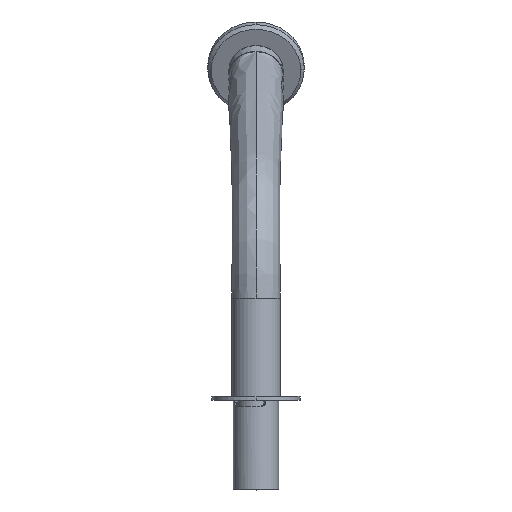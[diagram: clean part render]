
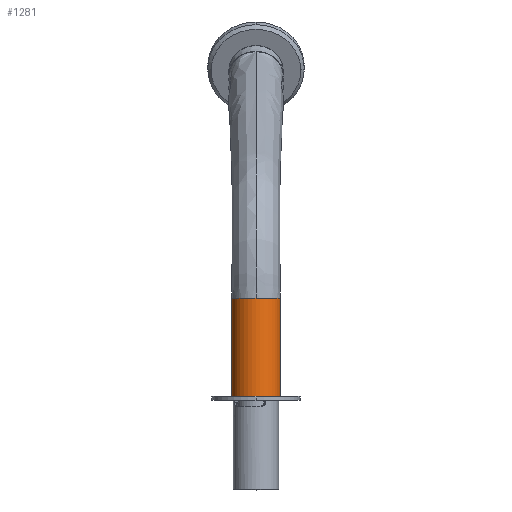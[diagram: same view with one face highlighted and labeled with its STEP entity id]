
A CAD part, top view. The second image highlights one B-rep face of the part: STEP entity #1281.
In plain terms, the highlighted cylindrical face has radius 17 mm (diameter 34 mm), a partial arc.
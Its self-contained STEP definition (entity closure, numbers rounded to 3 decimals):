
#58 = LINE ( 'NONE', #6566, #60 ) ;
#60 = VECTOR ( 'NONE', #6567, 1000. ) ;
#61 = CIRCLE ( 'NONE', #11744, 17. ) ;
#812 = VERTEX_POINT ( 'NONE', #7417 ) ;
#824 = VERTEX_POINT ( 'NONE', #7533 ) ;
#847 = VERTEX_POINT ( 'NONE', #7524 ) ;
#895 = VERTEX_POINT ( 'NONE', #7779 ) ;
#1281 = ADVANCED_FACE ( 'NONE', ( #5502 ), #5513, .T. ) ;
#1845 = CARTESIAN_POINT ( 'NONE',  ( -17., -70., 0. ) ) ;
#1846 = DIRECTION ( 'NONE',  ( 0., -1., 0. ) ) ;
#2255 = CARTESIAN_POINT ( 'NONE',  ( 0., 0., 0. ) ) ;
#2256 = DIRECTION ( 'NONE',  ( 0., -1., 0. ) ) ;
#2257 = DIRECTION ( 'NONE',  ( 1., 0., 0. ) ) ;
#2461 = ORIENTED_EDGE ( 'NONE', *, *, #3773, .T. ) ;
#2463 = ORIENTED_EDGE ( 'NONE', *, *, #4010, .T. ) ;
#2756 = CIRCLE ( 'NONE', #11492, 17. ) ;
#3773 = EDGE_CURVE ( 'NONE', #847, #824, #5761, .T. ) ;
#4010 = EDGE_CURVE ( 'NONE', #812, #847, #2756, .T. ) ;
#4213 = EDGE_CURVE ( 'NONE', #812, #895, #58, .T. ) ;
#4215 = EDGE_CURVE ( 'NONE', #895, #824, #61, .T. ) ;
#5502 = FACE_OUTER_BOUND ( 'NONE', #9622, .T. ) ;
#5513 = CYLINDRICAL_SURFACE ( 'NONE', #11838, 17. ) ;
#5761 = LINE ( 'NONE', #1845, #5764 ) ;
#5764 = VECTOR ( 'NONE', #1846, 1000. ) ;
#6566 = CARTESIAN_POINT ( 'NONE',  ( 17., -70., 0. ) ) ;
#6567 = DIRECTION ( 'NONE',  ( 0., -1., 0. ) ) ;
#6579 = CARTESIAN_POINT ( 'NONE',  ( 0., -70., 0. ) ) ;
#6580 = DIRECTION ( 'NONE',  ( 0., -1., 0. ) ) ;
#6581 = DIRECTION ( 'NONE',  ( 1., 0., 0. ) ) ;
#7417 = CARTESIAN_POINT ( 'NONE',  ( 17., 0., 0. ) ) ;
#7524 = CARTESIAN_POINT ( 'NONE',  ( -17., 0., 0. ) ) ;
#7533 = CARTESIAN_POINT ( 'NONE',  ( -17., -70., 0. ) ) ;
#7779 = CARTESIAN_POINT ( 'NONE',  ( 17., -70., 0. ) ) ;
#9422 = ORIENTED_EDGE ( 'NONE', *, *, #4213, .F. ) ;
#9425 = ORIENTED_EDGE ( 'NONE', *, *, #4215, .F. ) ;
#9622 = EDGE_LOOP ( 'NONE', ( #2463, #2461, #9425, #9422 ) ) ;
#10672 = CARTESIAN_POINT ( 'NONE',  ( 0., -70., 0. ) ) ;
#11091 = DIRECTION ( 'NONE',  ( 0., -1., 0. ) ) ;
#11108 = DIRECTION ( 'NONE',  ( 1., 0., 0. ) ) ;
#11492 = AXIS2_PLACEMENT_3D ( 'NONE', #2255, #2256, #2257 ) ;
#11744 = AXIS2_PLACEMENT_3D ( 'NONE', #6579, #6580, #6581 ) ;
#11838 = AXIS2_PLACEMENT_3D ( 'NONE', #10672, #11091, #11108 ) ;
